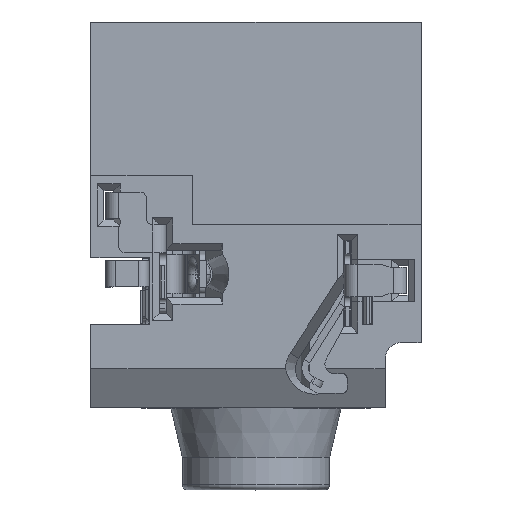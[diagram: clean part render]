
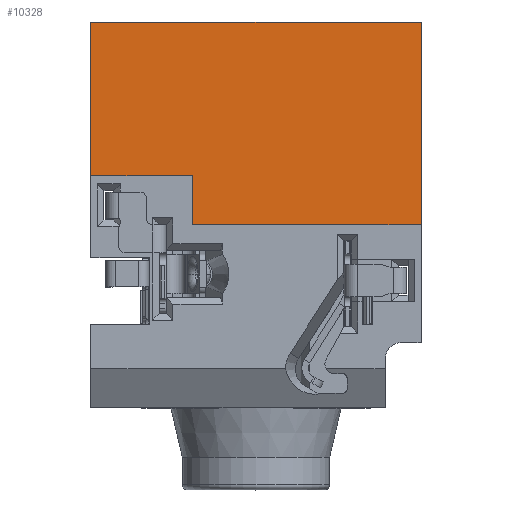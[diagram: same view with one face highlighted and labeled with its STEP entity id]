
A CAD part, top view. The second image highlights one B-rep face of the part: STEP entity #10328.
In plain terms, the highlighted planar face has unit normal (0, 0, 1).
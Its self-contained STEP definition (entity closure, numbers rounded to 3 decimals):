
#336 = CARTESIAN_POINT ( 'NONE',  ( -5.05, -11.8, 0. ) ) ;
#1799 = CARTESIAN_POINT ( 'NONE',  ( -5.05, 0., 0. ) ) ;
#2050 = ORIENTED_EDGE ( 'NONE', *, *, #12604, .F. ) ;
#4292 = DIRECTION ( 'NONE',  ( 0., 1., 0. ) ) ;
#4827 = VERTEX_POINT ( 'NONE', #31221 ) ;
#5370 = DIRECTION ( 'NONE',  ( 0., 1., 0. ) ) ;
#6060 = ORIENTED_EDGE ( 'NONE', *, *, #27570, .F. ) ;
#6539 = ORIENTED_EDGE ( 'NONE', *, *, #29017, .F. ) ;
#8069 = DIRECTION ( 'NONE',  ( 0., 0., -1. ) ) ;
#8449 = LINE ( 'NONE', #1799, #16292 ) ;
#8497 = PLANE ( 'NONE',  #11207 ) ;
#8960 = VECTOR ( 'NONE', #12165, 1000. ) ;
#9829 = CARTESIAN_POINT ( 'NONE',  ( 5.05, -6.2, 0. ) ) ;
#10328 = ADVANCED_FACE ( 'NONE', ( #16243 ), #8497, .F. ) ;
#11207 = AXIS2_PLACEMENT_3D ( 'NONE', #20971, #8069, #30593 ) ;
#11211 = DIRECTION ( 'NONE',  ( 0., 1., 0. ) ) ;
#12165 = DIRECTION ( 'NONE',  ( -1., 0., 0. ) ) ;
#12513 = LINE ( 'NONE', #20239, #24223 ) ;
#12604 = EDGE_CURVE ( 'NONE', #24810, #20729, #17274, .T. ) ;
#12617 = ORIENTED_EDGE ( 'NONE', *, *, #13276, .F. ) ;
#13276 = EDGE_CURVE ( 'NONE', #24931, #4827, #26947, .T. ) ;
#13431 = EDGE_CURVE ( 'NONE', #30794, #15028, #17590, .T. ) ;
#15028 = VERTEX_POINT ( 'NONE', #24375 ) ;
#15610 = ORIENTED_EDGE ( 'NONE', *, *, #13431, .T. ) ;
#16243 = FACE_OUTER_BOUND ( 'NONE', #29554, .T. ) ;
#16292 = VECTOR ( 'NONE', #17230, 1000. ) ;
#17230 = DIRECTION ( 'NONE',  ( -1., 0., 0. ) ) ;
#17274 = LINE ( 'NONE', #336, #22328 ) ;
#17590 = LINE ( 'NONE', #29312, #21846 ) ;
#17602 = LINE ( 'NONE', #24501, #8960 ) ;
#20239 = CARTESIAN_POINT ( 'NONE',  ( -5.05, -4.7, 0. ) ) ;
#20304 = EDGE_CURVE ( 'NONE', #15028, #20729, #8449, .T. ) ;
#20729 = VERTEX_POINT ( 'NONE', #31695 ) ;
#20971 = CARTESIAN_POINT ( 'NONE',  ( -5.05, -11.8, 0. ) ) ;
#21154 = CARTESIAN_POINT ( 'NONE',  ( -1.95, -4.7, 0. ) ) ;
#21846 = VECTOR ( 'NONE', #4292, 1000. ) ;
#22328 = VECTOR ( 'NONE', #5370, 1000. ) ;
#24223 = VECTOR ( 'NONE', #30495, 1000. ) ;
#24375 = CARTESIAN_POINT ( 'NONE',  ( 5.05, 0., 0. ) ) ;
#24501 = CARTESIAN_POINT ( 'NONE',  ( -1.95, -6.2, 0. ) ) ;
#24810 = VERTEX_POINT ( 'NONE', #25809 ) ;
#24931 = VERTEX_POINT ( 'NONE', #29390 ) ;
#25809 = CARTESIAN_POINT ( 'NONE',  ( -5.05, -4.7, 0. ) ) ;
#26947 = LINE ( 'NONE', #21154, #30098 ) ;
#27570 = EDGE_CURVE ( 'NONE', #4827, #24810, #12513, .T. ) ;
#29017 = EDGE_CURVE ( 'NONE', #30794, #24931, #17602, .T. ) ;
#29312 = CARTESIAN_POINT ( 'NONE',  ( 5.05, -11.8, 0. ) ) ;
#29390 = CARTESIAN_POINT ( 'NONE',  ( -1.95, -6.2, 0. ) ) ;
#29554 = EDGE_LOOP ( 'NONE', ( #2050, #6060, #12617, #6539, #15610, #31679 ) ) ;
#30098 = VECTOR ( 'NONE', #11211, 1000. ) ;
#30495 = DIRECTION ( 'NONE',  ( -1., 0., 0. ) ) ;
#30593 = DIRECTION ( 'NONE',  ( 1., 0., 0. ) ) ;
#30794 = VERTEX_POINT ( 'NONE', #9829 ) ;
#31221 = CARTESIAN_POINT ( 'NONE',  ( -1.95, -4.7, 0. ) ) ;
#31679 = ORIENTED_EDGE ( 'NONE', *, *, #20304, .T. ) ;
#31695 = CARTESIAN_POINT ( 'NONE',  ( -5.05, 0., 0. ) ) ;
